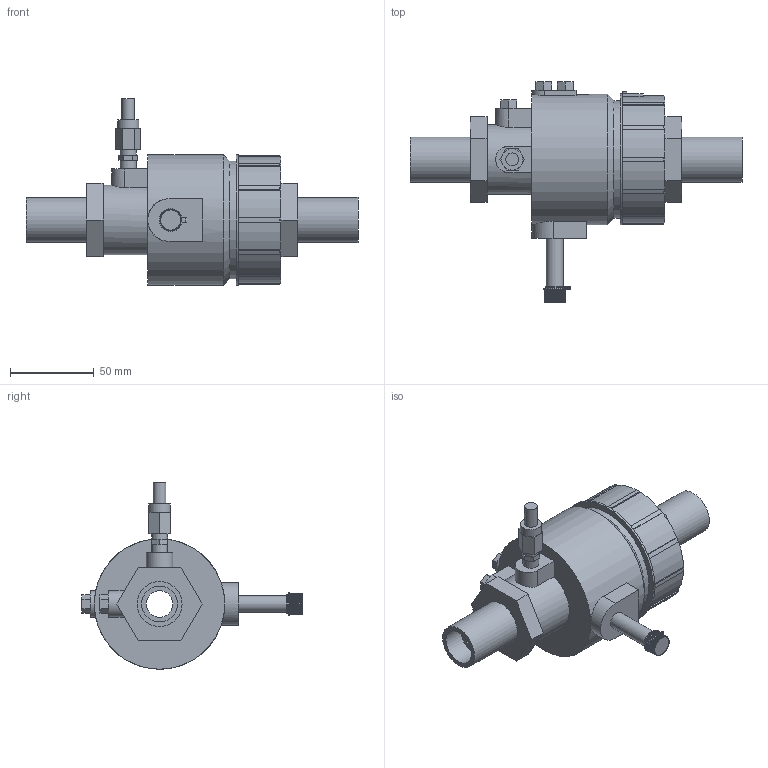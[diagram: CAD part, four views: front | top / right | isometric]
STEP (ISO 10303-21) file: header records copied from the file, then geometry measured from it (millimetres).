
FILE_DESCRIPTION(/* description */ ('VIC CONTROLLER DIFFERENTIAL PRESSURE TA SERIES 7DA (FPT)','CAx-IF Rec.Pracs.---Representation and Presentation of Product Manufacturing Information (PMI)---4.0---2014-10-13'),/* implementation_level */ '2;1');
FILE_NAME(/* name */ 'C:\Users\Vjadhav\Desktop\CAD for Inventor\1\7DA\STEP\Victaulic_IPS_Controller Differential Pressure_TA Series 7DA (FPT)\Victaulic_IPS_Controller Differential Pressure_TA Series 7DA (FPT)_0.5 (15).stp',/* time_stamp */ '2021-08-30T15:53:09+05:00',/* author */ ('Vjadhav'),/* organization */ ('Victaulic'),/* preprocessor_version */ 'ST-DEVELOPER v17.2',/* originating_system */ 'Autodesk Inventor 2019',/* authorisation */ '');
FILE_SCHEMA (('AP242_MANAGED_MODEL_BASED_3D_ENGINEERING_MIM_LF { 1 0 10303 442 1 1 4 }'));
Length unit declared in the file: inch
Products named in the file (1): 7DA-0.5
Bounding box: 198.12 x 131.44 x 111.36 mm (x, y, z)
Volume: 434405.8 mm3; surface area: 68223.1 mm2
Topology: 1 solids, 1 shells, 371 faces, 1039 edges, 692 vertices
Faces by surface type: plane 201, cylinder 122, torus 35, cone 13
Full cylindrical faces by diameter (mm): 2.54 x1, 7.62 x1, 9.525 x2, 10.16 x2, 12.7 x1, 15.799 x1, 21.336 x2, 26.873 x2, 41.498 x2, 51.486 x1, 54.026 x1, 70.192 x1, 72.898 x1, 77.812 x1
Entity records: 13088 total; most frequent: CARTESIAN_POINT 2868, ORIENTED_EDGE 2078, DIRECTION 2042, EDGE_CURVE 1039, AXIS2_PLACEMENT_3D 718, VERTEX_POINT 692, LINE 606, VECTOR 606
